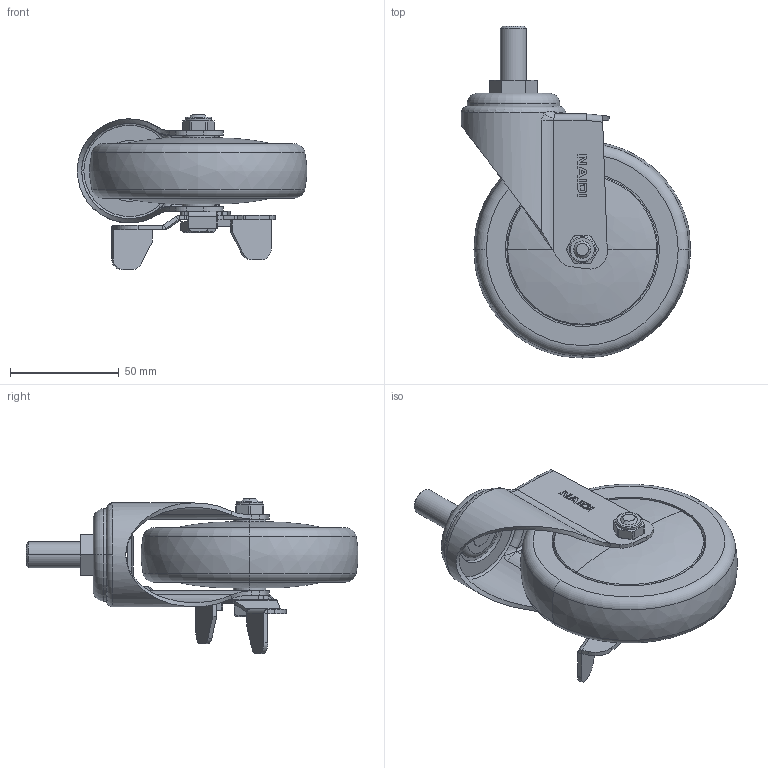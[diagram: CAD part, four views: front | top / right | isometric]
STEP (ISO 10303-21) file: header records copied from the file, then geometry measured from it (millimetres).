
FILE_DESCRIPTION((''),'2;1');
FILE_NAME('C34144C_ASM','2024-09-26T',('Lenovo'),(''),'PRO/ENGINEER BY PARAMETRIC TECHNOLOGY CORPORATION, 2010280','PRO/ENGINEER BY PARAMETRIC TECHNOLOGY CORPORATION, 2010280','');
FILE_SCHEMA(('CONFIG_CONTROL_DESIGN'));
Length unit declared in the file: millimetre
Products named in the file (10): C3414-311; 360-23-M12X25; C3410-211; C344-967; 374-69; 302-33; 300-34; 364-15; 300-14; C34144C_ASM
Assembly tree (10 placements, depth 2):
  C34144C_ASM
    C3414-311
    360-23-M12X25
    C3410-211
    C344-967
    374-69  x2
    302-33
    300-34
    364-15
    300-14
Bounding box: 105.6 x 152.9 x 71.4 mm (x, y, z)
Volume: 176903 mm3; surface area: 77760.7 mm2
Topology: 10 solids, 10 shells, 396 faces, 935 edges, 582 vertices
Faces by surface type: plane 187, cylinder 130, torus 36, bspline 25, cone 18
Entity records: 12447 total; most frequent: CARTESIAN_POINT 3715, DIRECTION 1826, ORIENTED_EDGE 1738, EDGE_CURVE 869, AXIS2_PLACEMENT_3D 661, VERTEX_POINT 544, VECTOR 504, LINE 504
